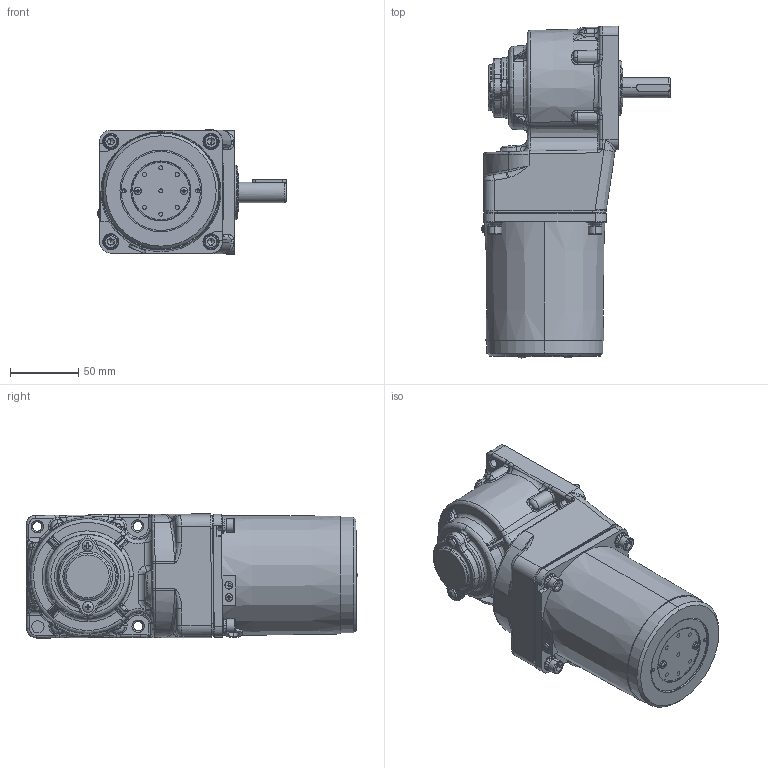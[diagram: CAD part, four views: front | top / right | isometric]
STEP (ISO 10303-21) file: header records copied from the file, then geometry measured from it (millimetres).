
FILE_DESCRIPTION (( 'STEP AP203' ), '1' );
FILE_NAME ('5RK40GU-C(5GU3RT-180RT)ÐÂ.STEP', '2022-02-24T00:45:38', ( 'PC' ), ( 'Microsoft' ), 'SwSTEP 2.0', 'SolidWorks 2014', '' );
FILE_SCHEMA (( 'CONFIG_CONTROL_DESIGN' ));
Length unit declared in the file: millimetre
Products named in the file (9): 90壔裔; ZD-5GU50RC-505-003綴傷裔; 90RT妗陑怀堤傷裔; hexagon socket head cap screws gb_GB_FASTENER_SCREWS_HSHCS M5X12-N; cross recessed pan head screws gb_GB_CROSS_SCREWS_TYPE1 M4X6-6  H type-N; 5RK40GU-C(5GU3RC-180RC); 5RK40GU-C(5GU3RT-180RT)陔; zd-5gu-50rc-504-001m#眊极禱矗 2021-12-07 - 萵掛; 90妗陑怀堤粣
Assembly tree (12 placements, depth 2):
  5RK40GU-C(5GU3RT-180RT)陔
    zd-5gu-50rc-504-001m#眊极禱矗 2021-12-07 - 萵掛
    90妗陑怀堤粣
    90壔裔
    ZD-5GU50RC-505-003綴傷裔
    90RT妗陑怀堤傷裔
    hexagon socket head cap screws gb_GB_FASTENER_SCREWS_HSHCS M5X12-N  x4
    cross recessed pan head screws gb_GB_CROSS_SCREWS_TYPE1 M4X6-6  H type-N  x2
    5RK40GU-C(5GU3RC-180RC)
Bounding box: 138.35 x 243.5 x 91.08 mm (x, y, z)
Volume: 793126.5 mm3; surface area: 174525.6 mm2
Topology: 25 solids, 35 shells, 2135 faces, 5121 edges, 2999 vertices
Faces by surface type: plane 589, cone 546, bspline 465, cylinder 438, torus 91, sphere 6
Entity records: 85038 total; most frequent: CARTESIAN_POINT 40827, ORIENTED_EDGE 9544, DIRECTION 8339, EDGE_CURVE 4773, AXIS2_PLACEMENT_3D 3337, VERTEX_POINT 2859, EDGE_LOOP 2139, ADVANCED_FACE 2036
